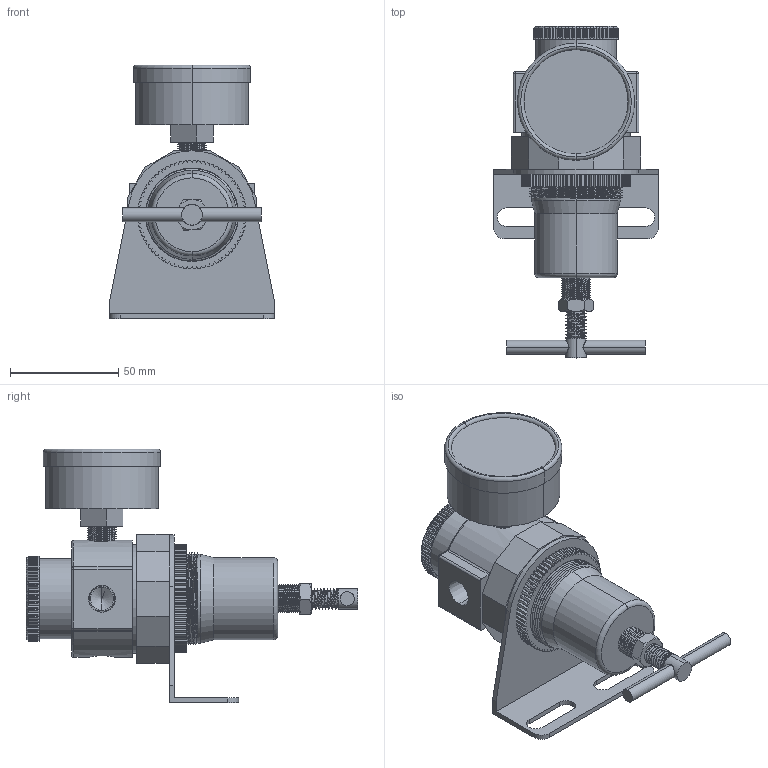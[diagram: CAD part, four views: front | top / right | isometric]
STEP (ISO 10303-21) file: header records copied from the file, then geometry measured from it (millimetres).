
FILE_DESCRIPTION (( 'STEP AP203' ), '1' );
FILE_NAME ('R011-02GB#.STEP', '2016-01-14T17:56:39', ( '' ), ( '' ), 'SwSTEP 2.0', 'SolidWorks 2014', '' );
FILE_SCHEMA (( 'CONFIG_CONTROL_DESIGN' ));
Length unit declared in the file: millimetre
Products named in the file (13): KWSAR10Y57; KWSAR10Y57-1; R010-2; 50-P-AD=1-4PT-2; R119-02-5; KWR10X51; R011-1; R119-02-6; R010-1; R119-02-7; 50-P-AD=1-4PT.SLDPRT; R011-02GB#; 50-P-AD=1-4PT-1
Assembly tree (12 placements, depth 3):
  R011-02GB#
    R010-1
    R010-2
    KWSAR10Y57
      KWSAR10Y57-1
      KWR10X51
    R011-1
    R119-02-5
    R119-02-6
    R119-02-7
    50-P-AD=1-4PT.SLDPRT
      50-P-AD=1-4PT-1
      50-P-AD=1-4PT-2
Bounding box: 76 x 153 x 117 mm (x, y, z)
Volume: 271420.1 mm3; surface area: 62936.7 mm2
Topology: 10 solids, 10 shells, 735 faces, 2075 edges, 1361 vertices
Faces by surface type: plane 364, cylinder 314, cone 32, torus 13, bspline 8, sphere 4
Entity records: 31358 total; most frequent: CARTESIAN_POINT 11615, ORIENTED_EDGE 4126, DIRECTION 3601, EDGE_CURVE 2063, VERTEX_POINT 1361, AXIS2_PLACEMENT_3D 1207, LINE 1187, VECTOR 1187
